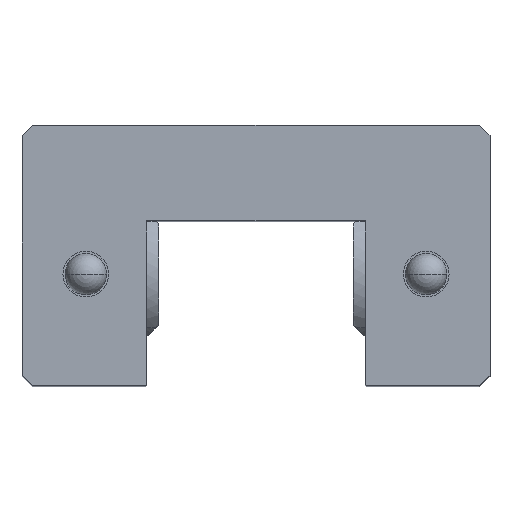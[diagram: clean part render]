
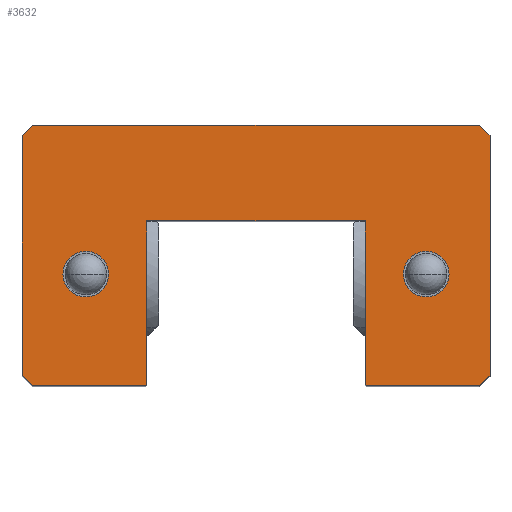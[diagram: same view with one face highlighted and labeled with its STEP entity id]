
A CAD part, top view. The second image highlights one B-rep face of the part: STEP entity #3632.
In plain terms, the highlighted planar face has unit normal (0, 0, 1).
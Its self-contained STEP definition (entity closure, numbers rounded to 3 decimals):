
#1496 = VERTEX_POINT( '', #4287 );
#1542 = EDGE_CURVE( '', #1672, #3280, #4336, .T. );
#1670 = EDGE_CURVE( '', #1996, #2594, #4471, .T. );
#1672 = VERTEX_POINT( '', #4473 );
#1686 = VERTEX_POINT( '', #4487 );
#1828 = EDGE_CURVE( '', #2032, #3566, #4646, .T. );
#1832 = EDGE_CURVE( '', #2598, #2032, #4650, .T. );
#1996 = VERTEX_POINT( '', #4828 );
#2032 = VERTEX_POINT( '', #4869 );
#2102 = EDGE_CURVE( '', #2672, #2130, #4945, .T. );
#2130 = VERTEX_POINT( '', #4981 );
#2162 = VERTEX_POINT( '', #5016 );
#2230 = EDGE_CURVE( '', #2162, #3366, #5092, .T. );
#2306 = EDGE_CURVE( '', #3152, #1672, #5178, .T. );
#2342 = VERTEX_POINT( '', #5217 );
#2414 = EDGE_CURVE( '', #2130, #1686, #5297, .T. );
#2594 = VERTEX_POINT( '', #5502 );
#2598 = VERTEX_POINT( '', #5506 );
#2646 = EDGE_CURVE( '', #2594, #2598, #5558, .T. );
#2672 = VERTEX_POINT( '', #5585 );
#2718 = EDGE_CURVE( '', #2944, #2672, #5640, .T. );
#2724 = EDGE_CURVE( '', #3120, #3438, #5646, .T. );
#2944 = VERTEX_POINT( '', #5898 );
#2966 = EDGE_CURVE( '', #3280, #1996, #5925, .T. );
#3120 = VERTEX_POINT( '', #6096 );
#3152 = VERTEX_POINT( '', #6130 );
#3280 = VERTEX_POINT( '', #6280 );
#3362 = EDGE_CURVE( '', #1496, #3152, #6371, .T. );
#3366 = VERTEX_POINT( '', #6375 );
#3438 = VERTEX_POINT( '', #6453 );
#3542 = EDGE_CURVE( '', #3366, #2162, #6564, .T. );
#3566 = VERTEX_POINT( '', #6589 );
#3632 = ADVANCED_FACE( '', ( #6666, #6667, #6668 ), #6669, .T. );
#3758 = EDGE_CURVE( '', #3566, #2944, #6808, .T. );
#3910 = EDGE_CURVE( '', #2342, #1496, #6980, .T. );
#4128 = EDGE_CURVE( '', #1686, #2342, #7232, .T. );
#4136 = EDGE_CURVE( '', #3438, #3120, #7241, .T. );
#4287 = CARTESIAN_POINT( '', ( -10.25, 21., 0. ) );
#4336 = LINE( '', #7482, #7483 );
#4471 = LINE( '', #7675, #7676 );
#4473 = CARTESIAN_POINT( '', ( 10.25, 5.6, 0. ) );
#4487 = CARTESIAN_POINT( '', ( -10.35, 5.5, 0. ) );
#4646 = LINE( '', #7902, #7903 );
#4650 = LINE( '', #7910, #7911 );
#4828 = CARTESIAN_POINT( '', ( 21., 5.5, 0. ) );
#4869 = CARTESIAN_POINT( '', ( 21., 30., 0. ) );
#4945 = LINE( '', #8332, #8333 );
#4981 = CARTESIAN_POINT( '', ( -21., 5.5, 0. ) );
#5016 = CARTESIAN_POINT( '', ( -16., 13.85, 0. ) );
#5092 = CIRCLE( '', #8523, 2.15 );
#5178 = LINE( '', #8640, #8641 );
#5217 = CARTESIAN_POINT( '', ( -10.25, 5.6, 0. ) );
#5297 = LINE( '', #8794, #8795 );
#5502 = CARTESIAN_POINT( '', ( 22., 6.5, 0. ) );
#5506 = CARTESIAN_POINT( '', ( 22., 29., 0. ) );
#5558 = LINE( '', #9143, #9144 );
#5585 = CARTESIAN_POINT( '', ( -22., 6.5, 0. ) );
#5640 = LINE( '', #9255, #9256 );
#5646 = CIRCLE( '', #9265, 2.15 );
#5898 = CARTESIAN_POINT( '', ( -22., 29., 0. ) );
#5925 = LINE( '', #9633, #9634 );
#6096 = CARTESIAN_POINT( '', ( 16., 18.15, 0. ) );
#6130 = CARTESIAN_POINT( '', ( 10.25, 21., 0. ) );
#6280 = CARTESIAN_POINT( '', ( 10.35, 5.5, 0. ) );
#6371 = LINE( '', #10256, #10257 );
#6375 = CARTESIAN_POINT( '', ( -16., 18.15, 0. ) );
#6453 = CARTESIAN_POINT( '', ( 16., 13.85, 0. ) );
#6564 = CIRCLE( '', #10533, 2.15 );
#6589 = CARTESIAN_POINT( '', ( -21., 30., 0. ) );
#6666 = FACE_BOUND( '', #10668, .T. );
#6667 = FACE_BOUND( '', #10669, .T. );
#6668 = FACE_OUTER_BOUND( '', #10670, .T. );
#6669 = PLANE( '', #10671 );
#6808 = LINE( '', #10865, #10866 );
#6980 = LINE( '', #11100, #11101 );
#7232 = LINE( '', #11428, #11429 );
#7241 = CIRCLE( '', #11443, 2.15 );
#7482 = CARTESIAN_POINT( '', ( 10.25, 5.6, 0. ) );
#7483 = VECTOR( '', #11679, 1. );
#7675 = CARTESIAN_POINT( '', ( 21., 5.5, 0. ) );
#7676 = VECTOR( '', #11790, 1. );
#7902 = CARTESIAN_POINT( '', ( 21., 30., 0. ) );
#7903 = VECTOR( '', #11975, 1. );
#7910 = CARTESIAN_POINT( '', ( 22., 29., 0. ) );
#7911 = VECTOR( '', #11977, 1. );
#8332 = CARTESIAN_POINT( '', ( -22., 6.5, 0. ) );
#8333 = VECTOR( '', #12279, 1. );
#8523 = AXIS2_PLACEMENT_3D( '', #12447, #12448, #12449 );
#8640 = CARTESIAN_POINT( '', ( 10.25, 21., 0. ) );
#8641 = VECTOR( '', #12572, 1. );
#8794 = CARTESIAN_POINT( '', ( -21., 5.5, 0. ) );
#8795 = VECTOR( '', #12702, 1. );
#9143 = CARTESIAN_POINT( '', ( 22., 6.5, 0. ) );
#9144 = VECTOR( '', #13010, 1. );
#9255 = CARTESIAN_POINT( '', ( -22., 29., 0. ) );
#9256 = VECTOR( '', #13113, 1. );
#9265 = AXIS2_PLACEMENT_3D( '', #13115, #13116, #13117 );
#9633 = CARTESIAN_POINT( '', ( 10.35, 5.5, 0. ) );
#9634 = VECTOR( '', #13491, 1. );
#10256 = CARTESIAN_POINT( '', ( -10.25, 21., 0. ) );
#10257 = VECTOR( '', #13984, 1. );
#10533 = AXIS2_PLACEMENT_3D( '', #14162, #14163, #14164 );
#10668 = EDGE_LOOP( '', ( #14276, #14277 ) );
#10669 = EDGE_LOOP( '', ( #14278, #14279 ) );
#10670 = EDGE_LOOP( '', ( #14280, #14281, #14282, #14283, #14284, #14285, #14286, #14287, #14288, #14289, #14290, #14291, #14292, #14293 ) );
#10671 = AXIS2_PLACEMENT_3D( '', #14294, #14295, #14296 );
#10865 = CARTESIAN_POINT( '', ( -21., 30., 0. ) );
#10866 = VECTOR( '', #14444, 1. );
#11100 = CARTESIAN_POINT( '', ( -10.25, 5.6, 0. ) );
#11101 = VECTOR( '', #14638, 1. );
#11428 = CARTESIAN_POINT( '', ( -10.35, 5.5, 0. ) );
#11429 = VECTOR( '', #14958, 1. );
#11443 = AXIS2_PLACEMENT_3D( '', #14969, #14970, #14971 );
#11679 = DIRECTION( '', ( 0.707, -0.707, 0. ) );
#11790 = DIRECTION( '', ( 0.707, 0.707, 0. ) );
#11975 = DIRECTION( '', ( -1., 0., 0. ) );
#11977 = DIRECTION( '', ( -0.707, 0.707, 0. ) );
#12279 = DIRECTION( '', ( 0.707, -0.707, 0. ) );
#12447 = CARTESIAN_POINT( '', ( -16., 16., 0. ) );
#12448 = DIRECTION( '', ( 0., 0., -1. ) );
#12449 = DIRECTION( '', ( 0., -1., 0. ) );
#12572 = DIRECTION( '', ( 0., -1., 0. ) );
#12702 = DIRECTION( '', ( 1., 0., 0. ) );
#13010 = DIRECTION( '', ( 0., 1., 0. ) );
#13113 = DIRECTION( '', ( 0., -1., 0. ) );
#13115 = CARTESIAN_POINT( '', ( 16., 16., 0. ) );
#13116 = DIRECTION( '', ( 0., 0., -1. ) );
#13117 = DIRECTION( '', ( 0., -1., 0. ) );
#13491 = DIRECTION( '', ( 1., 0., 0. ) );
#13984 = DIRECTION( '', ( 1., 0., 0. ) );
#14162 = CARTESIAN_POINT( '', ( -16., 16., 0. ) );
#14163 = DIRECTION( '', ( 0., 0., -1. ) );
#14164 = DIRECTION( '', ( 0., -1., 0. ) );
#14276 = ORIENTED_EDGE( '', *, *, #2724, .T. );
#14277 = ORIENTED_EDGE( '', *, *, #4136, .T. );
#14278 = ORIENTED_EDGE( '', *, *, #3542, .T. );
#14279 = ORIENTED_EDGE( '', *, *, #2230, .T. );
#14280 = ORIENTED_EDGE( '', *, *, #2718, .T. );
#14281 = ORIENTED_EDGE( '', *, *, #2102, .T. );
#14282 = ORIENTED_EDGE( '', *, *, #2414, .T. );
#14283 = ORIENTED_EDGE( '', *, *, #4128, .T. );
#14284 = ORIENTED_EDGE( '', *, *, #3910, .T. );
#14285 = ORIENTED_EDGE( '', *, *, #3362, .T. );
#14286 = ORIENTED_EDGE( '', *, *, #2306, .T. );
#14287 = ORIENTED_EDGE( '', *, *, #1542, .T. );
#14288 = ORIENTED_EDGE( '', *, *, #2966, .T. );
#14289 = ORIENTED_EDGE( '', *, *, #1670, .T. );
#14290 = ORIENTED_EDGE( '', *, *, #2646, .T. );
#14291 = ORIENTED_EDGE( '', *, *, #1832, .T. );
#14292 = ORIENTED_EDGE( '', *, *, #1828, .T. );
#14293 = ORIENTED_EDGE( '', *, *, #3758, .T. );
#14294 = CARTESIAN_POINT( '', ( 0., 0., 0. ) );
#14295 = DIRECTION( '', ( 0., 0., 1. ) );
#14296 = DIRECTION( '', ( 1., 0., 0. ) );
#14444 = DIRECTION( '', ( -0.707, -0.707, 0. ) );
#14638 = DIRECTION( '', ( 0., 1., 0. ) );
#14958 = DIRECTION( '', ( 0.707, 0.707, 0. ) );
#14969 = CARTESIAN_POINT( '', ( 16., 16., 0. ) );
#14970 = DIRECTION( '', ( 0., 0., -1. ) );
#14971 = DIRECTION( '', ( 0., -1., 0. ) );
